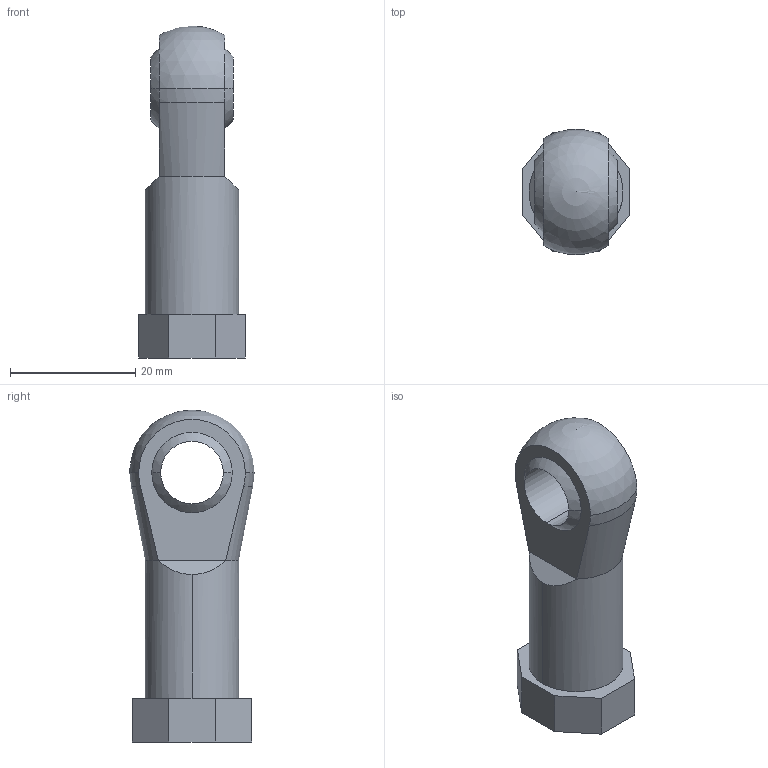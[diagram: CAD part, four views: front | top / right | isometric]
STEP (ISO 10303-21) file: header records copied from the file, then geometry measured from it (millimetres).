
FILE_DESCRIPTION (( 'STEP AP214' ), '1' );
FILE_NAME ('KJ10DA.step.step', '2019-08-13T00:42:55', ( '' ), ( '' ), 'SwSTEP 2.0', 'SolidWorks 2019', '' );
FILE_SCHEMA (( 'AUTOMOTIVE_DESIGN' ));
Length unit declared in the file: millimetre
Products named in the file (2): KJ10DA.step; KJ10DA.step_KJ10DA_KJ10DA
Assembly tree (1 placements, depth 2):
  KJ10DA.step
    KJ10DA.step_KJ10DA_KJ10DA
Bounding box: 17 x 20 x 53 mm (x, y, z)
Volume: 7244.3 mm3; surface area: 4038.2 mm2
Topology: 1 solids, 1 shells, 31 faces, 83 edges, 53 vertices
Faces by surface type: plane 14, sphere 7, cylinder 6, cone 2, torus 2
Entity records: 1018 total; most frequent: CARTESIAN_POINT 188, DIRECTION 176, ORIENTED_EDGE 156, EDGE_CURVE 78, AXIS2_PLACEMENT_3D 71, VERTEX_POINT 51, CIRCLE 36, EDGE_LOOP 35
